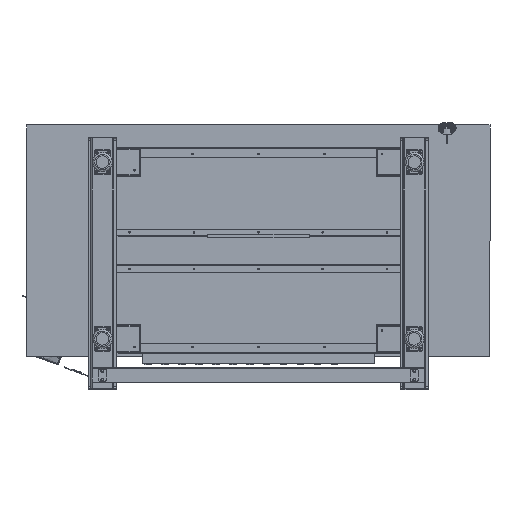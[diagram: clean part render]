
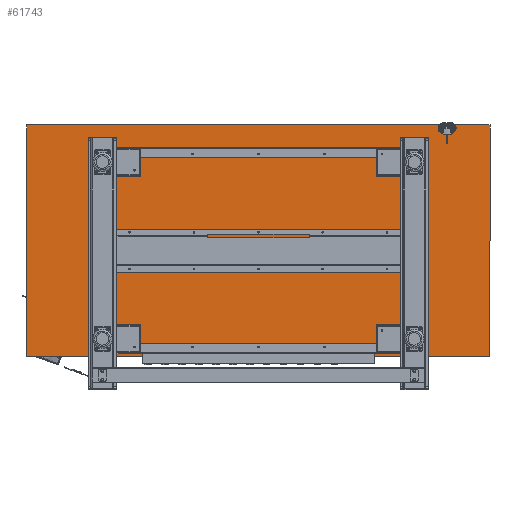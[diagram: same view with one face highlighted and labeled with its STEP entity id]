
A CAD part, front view. The second image highlights one B-rep face of the part: STEP entity #61743.
In plain terms, the highlighted planar face has unit normal (0, -1, 0).
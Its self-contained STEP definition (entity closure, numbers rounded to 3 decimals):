
#12436 = VERTEX_POINT ( 'NONE', #427427 ) ;
#47397 = EDGE_CURVE ( 'NONE', #363123, #199248, #68416, .T. ) ;
#52848 = ORIENTED_EDGE ( 'NONE', *, *, #47397, .F. ) ;
#56510 = DIRECTION ( 'NONE',  ( 0., 0., -1. ) ) ;
#60668 = VECTOR ( 'NONE', #204161, 1000. ) ;
#61743 = ADVANCED_FACE ( 'NONE', ( #308975 ), #156618, .F. ) ;
#68416 = LINE ( 'NONE', #151609, #433816 ) ;
#71786 = LINE ( 'NONE', #408364, #60668 ) ;
#118972 = VERTEX_POINT ( 'NONE', #328132 ) ;
#119642 = VECTOR ( 'NONE', #225347, 1000. ) ;
#120888 = DIRECTION ( 'NONE',  ( 0., 1., 0. ) ) ;
#151609 = CARTESIAN_POINT ( 'NONE',  ( -1529.96, 644.5, 844.25 ) ) ;
#156618 = PLANE ( 'NONE',  #392691 ) ;
#170647 = CARTESIAN_POINT ( 'NONE',  ( -1529.96, 644.5, 844.25 ) ) ;
#198160 = DIRECTION ( 'NONE',  ( 0., 0., 1. ) ) ;
#199248 = VERTEX_POINT ( 'NONE', #400792 ) ;
#203968 = ORIENTED_EDGE ( 'NONE', *, *, #412393, .F. ) ;
#204161 = DIRECTION ( 'NONE',  ( -1., 0., 0. ) ) ;
#204565 = EDGE_LOOP ( 'NONE', ( #308429, #52848, #358626, #203968 ) ) ;
#225347 = DIRECTION ( 'NONE',  ( 0., 0., 1. ) ) ;
#230323 = LINE ( 'NONE', #299572, #119642 ) ;
#286022 = VECTOR ( 'NONE', #56510, 1000. ) ;
#298090 = CARTESIAN_POINT ( 'NONE',  ( 298.84, 644.5, -70.15 ) ) ;
#299572 = CARTESIAN_POINT ( 'NONE',  ( -1529.96, 644.5, -70.15 ) ) ;
#308429 = ORIENTED_EDGE ( 'NONE', *, *, #391970, .F. ) ;
#308975 = FACE_OUTER_BOUND ( 'NONE', #204565, .T. ) ;
#313552 = LINE ( 'NONE', #298090, #286022 ) ;
#328132 = CARTESIAN_POINT ( 'NONE',  ( -1529.96, 644.5, -70.15 ) ) ;
#358626 = ORIENTED_EDGE ( 'NONE', *, *, #426520, .F. ) ;
#363123 = VERTEX_POINT ( 'NONE', #170647 ) ;
#391970 = EDGE_CURVE ( 'NONE', #199248, #12436, #313552, .T. ) ;
#392691 = AXIS2_PLACEMENT_3D ( 'NONE', #410068, #120888, #198160 ) ;
#400585 = DIRECTION ( 'NONE',  ( 1., 0., 0. ) ) ;
#400792 = CARTESIAN_POINT ( 'NONE',  ( 298.84, 644.5, 844.25 ) ) ;
#408364 = CARTESIAN_POINT ( 'NONE',  ( -1529.96, 644.5, -70.15 ) ) ;
#410068 = CARTESIAN_POINT ( 'NONE',  ( -615.56, 644.5, 387.05 ) ) ;
#412393 = EDGE_CURVE ( 'NONE', #12436, #118972, #71786, .T. ) ;
#426520 = EDGE_CURVE ( 'NONE', #118972, #363123, #230323, .T. ) ;
#427427 = CARTESIAN_POINT ( 'NONE',  ( 298.84, 644.5, -70.15 ) ) ;
#433816 = VECTOR ( 'NONE', #400585, 1000. ) ;
